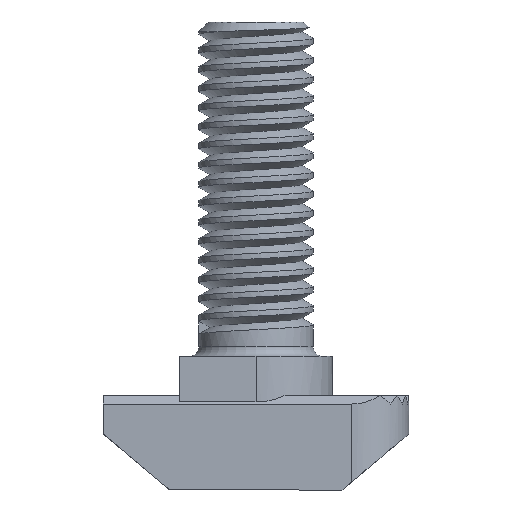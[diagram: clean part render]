
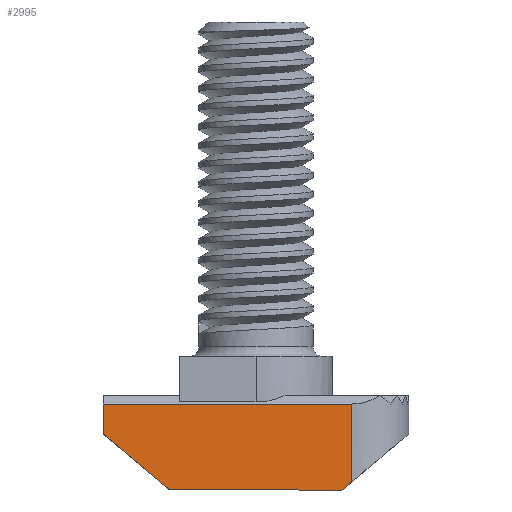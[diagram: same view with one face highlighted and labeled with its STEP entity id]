
A CAD part, front view. The second image highlights one B-rep face of the part: STEP entity #2995.
In plain terms, the highlighted planar face has unit normal (0, -1, 0).
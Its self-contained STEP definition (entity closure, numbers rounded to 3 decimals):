
#236 = CARTESIAN_POINT ( 'NONE',  ( -7., -3.353, 0. ) ) ;
#337 = DIRECTION ( 'NONE',  ( 0.766, 0., 0.643 ) ) ;
#387 = ORIENTED_EDGE ( 'NONE', *, *, #3357, .T. ) ;
#491 = EDGE_LOOP ( 'NONE', ( #1480, #1565, #1546, #1484, #387, #2097 ) ) ;
#522 = VERTEX_POINT ( 'NONE', #3255 ) ;
#701 = VERTEX_POINT ( 'NONE', #2449 ) ;
#731 = VECTOR ( 'NONE', #3161, 1000. ) ;
#736 = LINE ( 'NONE', #4088, #3974 ) ;
#1050 = VECTOR ( 'NONE', #1265, 1000. ) ;
#1060 = EDGE_CURVE ( 'NONE', #2553, #3434, #1172, .T. ) ;
#1172 = LINE ( 'NONE', #2783, #3096 ) ;
#1265 = DIRECTION ( 'NONE',  ( 0.766, 0., -0.643 ) ) ;
#1295 = VERTEX_POINT ( 'NONE', #4428 ) ;
#1299 = CARTESIAN_POINT ( 'NONE',  ( -7., -3.353, 4.5 ) ) ;
#1409 = CARTESIAN_POINT ( 'NONE',  ( -7., -3.353, 4.5 ) ) ;
#1480 = ORIENTED_EDGE ( 'NONE', *, *, #1060, .T. ) ;
#1484 = ORIENTED_EDGE ( 'NONE', *, *, #1744, .T. ) ;
#1546 = ORIENTED_EDGE ( 'NONE', *, *, #1703, .F. ) ;
#1565 = ORIENTED_EDGE ( 'NONE', *, *, #2425, .T. ) ;
#1703 = EDGE_CURVE ( 'NONE', #1917, #701, #4092, .T. ) ;
#1714 = DIRECTION ( 'NONE',  ( 0., 1., 0. ) ) ;
#1744 = EDGE_CURVE ( 'NONE', #1917, #522, #736, .T. ) ;
#1888 = VECTOR ( 'NONE', #3089, 1000. ) ;
#1917 = VERTEX_POINT ( 'NONE', #1409 ) ;
#1946 = VECTOR ( 'NONE', #2073, 1000. ) ;
#1997 = LINE ( 'NONE', #3695, #1050 ) ;
#2073 = DIRECTION ( 'NONE',  ( 1., 0., 0. ) ) ;
#2077 = EDGE_CURVE ( 'NONE', #1295, #2553, #2854, .T. ) ;
#2097 = ORIENTED_EDGE ( 'NONE', *, *, #2077, .T. ) ;
#2425 = EDGE_CURVE ( 'NONE', #3434, #701, #4996, .T. ) ;
#2449 = CARTESIAN_POINT ( 'NONE',  ( 6., -3.353, 4.5 ) ) ;
#2487 = DIRECTION ( 'NONE',  ( 0., 0., -1. ) ) ;
#2553 = VERTEX_POINT ( 'NONE', #5204 ) ;
#2766 = CARTESIAN_POINT ( 'NONE',  ( 6., -3.353, 0.42 ) ) ;
#2783 = CARTESIAN_POINT ( 'NONE',  ( 9., -3.353, 2.937 ) ) ;
#2854 = LINE ( 'NONE', #236, #1888 ) ;
#2995 = ADVANCED_FACE ( 'NONE', ( #3410 ), #3734, .F. ) ;
#3089 = DIRECTION ( 'NONE',  ( 1., 0., 0. ) ) ;
#3096 = VECTOR ( 'NONE', #337, 1000. ) ;
#3161 = DIRECTION ( 'NONE',  ( 0., 0., 1. ) ) ;
#3255 = CARTESIAN_POINT ( 'NONE',  ( -7., -3.353, 2.937 ) ) ;
#3357 = EDGE_CURVE ( 'NONE', #522, #1295, #1997, .T. ) ;
#3410 = FACE_OUTER_BOUND ( 'NONE', #491, .T. ) ;
#3434 = VERTEX_POINT ( 'NONE', #2766 ) ;
#3695 = CARTESIAN_POINT ( 'NONE',  ( -7., -3.353, 2.937 ) ) ;
#3734 = PLANE ( 'NONE',  #3923 ) ;
#3923 = AXIS2_PLACEMENT_3D ( 'NONE', #1299, #1714, #4521 ) ;
#3930 = CARTESIAN_POINT ( 'NONE',  ( 6., -3.353, 4.5 ) ) ;
#3974 = VECTOR ( 'NONE', #2487, 1000. ) ;
#4088 = CARTESIAN_POINT ( 'NONE',  ( -7., -3.353, 4.5 ) ) ;
#4092 = LINE ( 'NONE', #4916, #1946 ) ;
#4428 = CARTESIAN_POINT ( 'NONE',  ( -3.5, -3.353, 0. ) ) ;
#4521 = DIRECTION ( 'NONE',  ( 0., 0., 1. ) ) ;
#4916 = CARTESIAN_POINT ( 'NONE',  ( -7., -3.353, 4.5 ) ) ;
#4996 = LINE ( 'NONE', #3930, #731 ) ;
#5204 = CARTESIAN_POINT ( 'NONE',  ( 5.5, -3.353, 0. ) ) ;
